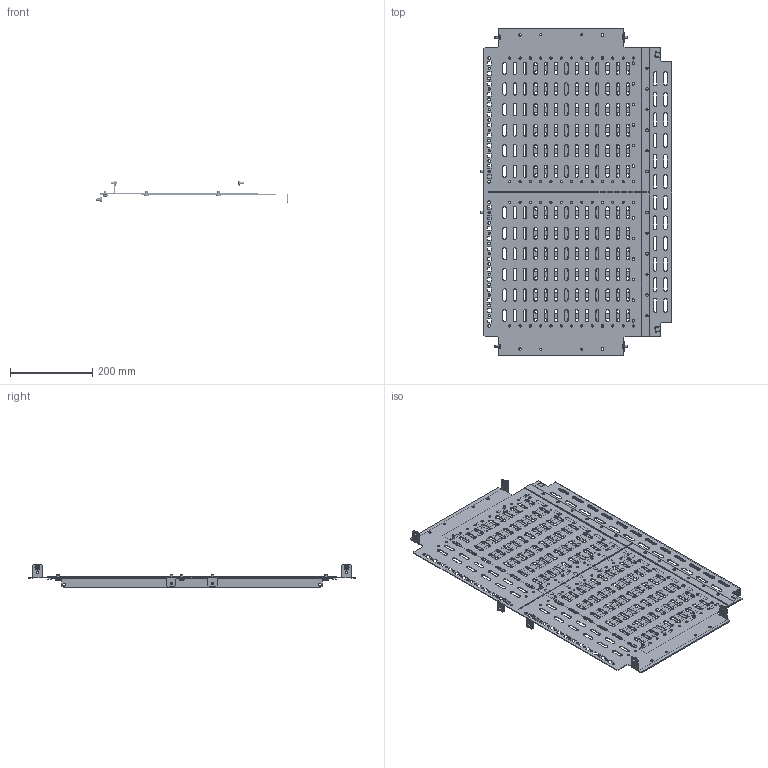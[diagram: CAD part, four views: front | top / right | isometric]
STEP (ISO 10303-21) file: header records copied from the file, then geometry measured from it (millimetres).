
FILE_DESCRIPTION (( 'STEP AP214' ), '1' );
FILE_NAME ('FO-00-SWMP-080-040 Ïåðåãîðîäêà ñåêöèîíèðîâàíèÿ ìîíòàæíîé ïàíåëè çàäíÿÿ ãîðèçîíòàëüíàÿ 800õ400 ìì â øêàô ãëóáèíîé 800 ìì.STEP', '2025-08-13T11:38:16', ( '' ), ( '' ), 'SwSTEP 2.0', 'SolidWorks 2023', '' );
FILE_SCHEMA (( 'AUTOMOTIVE_DESIGN' ));
Length unit declared in the file: millimetre
Products named in the file (6): Болты 800; Уголок; Перегородка секционирования монтажной панели задняя горизонтальная 800х400 мм; Перегородка секц. монт. панели задняя 800х400; Перегородка секционирования гориз. 800x400; FO-00-SWMP-080-040 Перегородка секционирования монтажной панели задняя горизонтальная 800х400 мм в шкаф глубиной 800 мм
Assembly tree (7 placements, depth 3):
  FO-00-SWMP-080-040 Перегородка секционирования монтажной панели задняя горизонтальная 800х400 мм в шкаф глубиной 800 мм
    Перегородка секционирования монтажной панели задняя горизонтальная 800х400 мм
      Перегородка секционирования гориз. 800x400
      Уголок  x2
    Перегородка секц. монт. панели задняя 800х400
    Болты 800  x2
Bounding box: 464.5 x 793.6 x 55.5 mm (x, y, z)
Volume: 756867.4 mm3; surface area: 1035643.2 mm2
Topology: 14 solids, 14 shells, 2660 faces, 7722 edges, 5116 vertices
Faces by surface type: cylinder 1414, plane 1150, cone 44, torus 40, sphere 12
Entity records: 85934 total; most frequent: CARTESIAN_POINT 14972, DIRECTION 14848, ORIENTED_EDGE 14592, EDGE_CURVE 7296, AXIS2_PLACEMENT_3D 5140, VERTEX_POINT 4844, LINE 4568, VECTOR 4568
